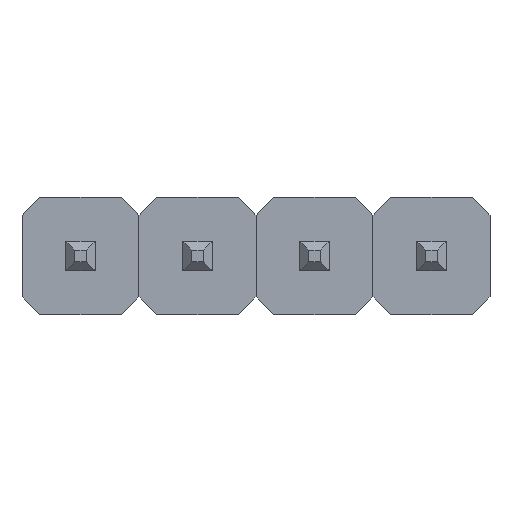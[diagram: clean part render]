
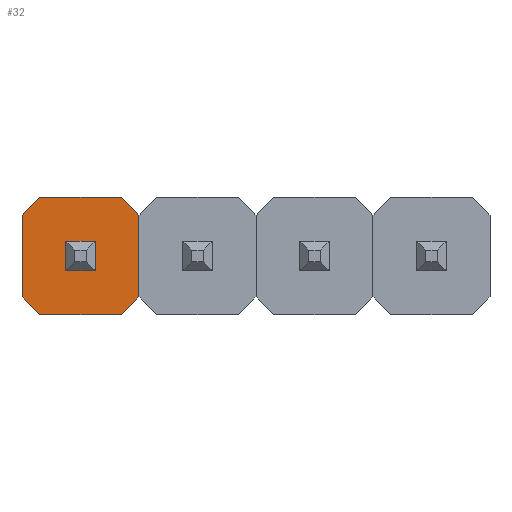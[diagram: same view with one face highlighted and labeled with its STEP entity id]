
A CAD part, front view. The second image highlights one B-rep face of the part: STEP entity #32.
In plain terms, the highlighted planar face has unit normal (0, -1, 0).
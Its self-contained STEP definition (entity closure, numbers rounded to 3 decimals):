
#2 = EDGE_CURVE ( 'NONE', #214, #274, #938, .T. ) ;
#11 = CARTESIAN_POINT ( 'NONE',  ( -0.3, 0., 0. ) ) ;
#22 = VERTEX_POINT ( 'NONE', #312 ) ;
#32 = ADVANCED_FACE ( 'NONE', ( #466, #83 ), #770, .F. ) ;
#35 = ORIENTED_EDGE ( 'NONE', *, *, #90, .F. ) ;
#61 = LINE ( 'NONE', #589, #880 ) ;
#69 = CARTESIAN_POINT ( 'NONE',  ( 0., 0., -1.7 ) ) ;
#74 = VECTOR ( 'NONE', #697, 1000. ) ;
#83 = FACE_OUTER_BOUND ( 'NONE', #298, .T. ) ;
#90 = EDGE_CURVE ( 'NONE', #22, #126, #565, .T. ) ;
#95 = VECTOR ( 'NONE', #573, 1000. ) ;
#107 = CARTESIAN_POINT ( 'NONE',  ( -0.15, 0., -1.85 ) ) ;
#123 = ORIENTED_EDGE ( 'NONE', *, *, #688, .F. ) ;
#126 = VERTEX_POINT ( 'NONE', #330 ) ;
#131 = CARTESIAN_POINT ( 'NONE',  ( -1.7, 0., -2. ) ) ;
#137 = VERTEX_POINT ( 'NONE', #427 ) ;
#156 = CARTESIAN_POINT ( 'NONE',  ( 0., 0., 0. ) ) ;
#162 = DIRECTION ( 'NONE',  ( -1., 0., 0. ) ) ;
#170 = CARTESIAN_POINT ( 'NONE',  ( -1.85, 0., -1.85 ) ) ;
#176 = DIRECTION ( 'NONE',  ( 0.707, 0., 0.707 ) ) ;
#179 = LINE ( 'NONE', #170, #767 ) ;
#196 = LINE ( 'NONE', #441, #985 ) ;
#203 = ORIENTED_EDGE ( 'NONE', *, *, #237, .F. ) ;
#205 = ORIENTED_EDGE ( 'NONE', *, *, #799, .F. ) ;
#214 = VERTEX_POINT ( 'NONE', #993 ) ;
#237 = EDGE_CURVE ( 'NONE', #348, #214, #61, .T. ) ;
#259 = CARTESIAN_POINT ( 'NONE',  ( 0., 0., -0.3 ) ) ;
#263 = VERTEX_POINT ( 'NONE', #988 ) ;
#270 = LINE ( 'NONE', #353, #95 ) ;
#274 = VERTEX_POINT ( 'NONE', #455 ) ;
#298 = EDGE_LOOP ( 'NONE', ( #811, #656, #371, #123, #518, #969, #35, #205 ) ) ;
#312 = CARTESIAN_POINT ( 'NONE',  ( -2., 0., -0.3 ) ) ;
#315 = CARTESIAN_POINT ( 'NONE',  ( 0., 0., 0. ) ) ;
#325 = CARTESIAN_POINT ( 'NONE',  ( -0.75, 0., -0.75 ) ) ;
#329 = VECTOR ( 'NONE', #790, 1000. ) ;
#330 = CARTESIAN_POINT ( 'NONE',  ( -1.7, 0., 0. ) ) ;
#333 = DIRECTION ( 'NONE',  ( -0.707, 0., -0.707 ) ) ;
#348 = VERTEX_POINT ( 'NONE', #450 ) ;
#353 = CARTESIAN_POINT ( 'NONE',  ( 0., 0., -0.75 ) ) ;
#363 = DIRECTION ( 'NONE',  ( 0., 0., -1. ) ) ;
#367 = LINE ( 'NONE', #465, #747 ) ;
#371 = ORIENTED_EDGE ( 'NONE', *, *, #408, .F. ) ;
#387 = DIRECTION ( 'NONE',  ( 0., 1., 0. ) ) ;
#391 = DIRECTION ( 'NONE',  ( 0., 0., 1. ) ) ;
#408 = EDGE_CURVE ( 'NONE', #840, #263, #955, .T. ) ;
#427 = CARTESIAN_POINT ( 'NONE',  ( -2., 0., -1.7 ) ) ;
#441 = CARTESIAN_POINT ( 'NONE',  ( -0.75, 0., -1.25 ) ) ;
#450 = CARTESIAN_POINT ( 'NONE',  ( -1.25, 0., -0.75 ) ) ;
#455 = CARTESIAN_POINT ( 'NONE',  ( -0.75, 0., -1.25 ) ) ;
#460 = VERTEX_POINT ( 'NONE', #259 ) ;
#465 = CARTESIAN_POINT ( 'NONE',  ( -2., 0., 0. ) ) ;
#466 = FACE_BOUND ( 'NONE', #724, .T. ) ;
#474 = LINE ( 'NONE', #622, #74 ) ;
#483 = LINE ( 'NONE', #315, #329 ) ;
#518 = ORIENTED_EDGE ( 'NONE', *, *, #974, .F. ) ;
#553 = CARTESIAN_POINT ( 'NONE',  ( -1.85, 0., -0.15 ) ) ;
#565 = LINE ( 'NONE', #553, #679 ) ;
#573 = DIRECTION ( 'NONE',  ( -1., 0., 0. ) ) ;
#576 = EDGE_CURVE ( 'NONE', #910, #348, #270, .T. ) ;
#589 = CARTESIAN_POINT ( 'NONE',  ( -1.25, 0., -0.75 ) ) ;
#603 = DIRECTION ( 'NONE',  ( 0., 0., -1. ) ) ;
#607 = ORIENTED_EDGE ( 'NONE', *, *, #576, .F. ) ;
#620 = LINE ( 'NONE', #777, #987 ) ;
#622 = CARTESIAN_POINT ( 'NONE',  ( -0.15, 0., -0.15 ) ) ;
#638 = VERTEX_POINT ( 'NONE', #131 ) ;
#656 = ORIENTED_EDGE ( 'NONE', *, *, #960, .F. ) ;
#661 = ORIENTED_EDGE ( 'NONE', *, *, #677, .F. ) ;
#677 = EDGE_CURVE ( 'NONE', #274, #910, #196, .T. ) ;
#679 = VECTOR ( 'NONE', #176, 1000. ) ;
#681 = VECTOR ( 'NONE', #333, 1000. ) ;
#688 = EDGE_CURVE ( 'NONE', #460, #840, #895, .T. ) ;
#697 = DIRECTION ( 'NONE',  ( 0.707, 0., -0.707 ) ) ;
#724 = EDGE_LOOP ( 'NONE', ( #661, #819, #203, #607 ) ) ;
#737 = DIRECTION ( 'NONE',  ( 0., 0., 1. ) ) ;
#747 = VECTOR ( 'NONE', #995, 1000. ) ;
#767 = VECTOR ( 'NONE', #861, 1000. ) ;
#770 = PLANE ( 'NONE',  #854 ) ;
#777 = CARTESIAN_POINT ( 'NONE',  ( 0., 0., -2. ) ) ;
#790 = DIRECTION ( 'NONE',  ( 1., 0., 0. ) ) ;
#799 = EDGE_CURVE ( 'NONE', #137, #22, #367, .T. ) ;
#811 = ORIENTED_EDGE ( 'NONE', *, *, #930, .F. ) ;
#819 = ORIENTED_EDGE ( 'NONE', *, *, #2, .F. ) ;
#839 = VECTOR ( 'NONE', #849, 1000. ) ;
#840 = VERTEX_POINT ( 'NONE', #69 ) ;
#849 = DIRECTION ( 'NONE',  ( 1., 0., 0. ) ) ;
#853 = CARTESIAN_POINT ( 'NONE',  ( -1.25, 0., -1.25 ) ) ;
#854 = AXIS2_PLACEMENT_3D ( 'NONE', #941, #387, #391 ) ;
#861 = DIRECTION ( 'NONE',  ( -0.707, 0., 0.707 ) ) ;
#880 = VECTOR ( 'NONE', #363, 1000. ) ;
#895 = LINE ( 'NONE', #156, #933 ) ;
#910 = VERTEX_POINT ( 'NONE', #325 ) ;
#923 = VERTEX_POINT ( 'NONE', #11 ) ;
#930 = EDGE_CURVE ( 'NONE', #638, #137, #179, .T. ) ;
#932 = EDGE_CURVE ( 'NONE', #126, #923, #483, .T. ) ;
#933 = VECTOR ( 'NONE', #603, 1000. ) ;
#938 = LINE ( 'NONE', #853, #839 ) ;
#941 = CARTESIAN_POINT ( 'NONE',  ( 0., 0., 0. ) ) ;
#955 = LINE ( 'NONE', #107, #681 ) ;
#960 = EDGE_CURVE ( 'NONE', #263, #638, #620, .T. ) ;
#969 = ORIENTED_EDGE ( 'NONE', *, *, #932, .F. ) ;
#974 = EDGE_CURVE ( 'NONE', #923, #460, #474, .T. ) ;
#985 = VECTOR ( 'NONE', #737, 1000. ) ;
#987 = VECTOR ( 'NONE', #162, 1000. ) ;
#988 = CARTESIAN_POINT ( 'NONE',  ( -0.3, 0., -2. ) ) ;
#993 = CARTESIAN_POINT ( 'NONE',  ( -1.25, 0., -1.25 ) ) ;
#995 = DIRECTION ( 'NONE',  ( 0., 0., 1. ) ) ;
